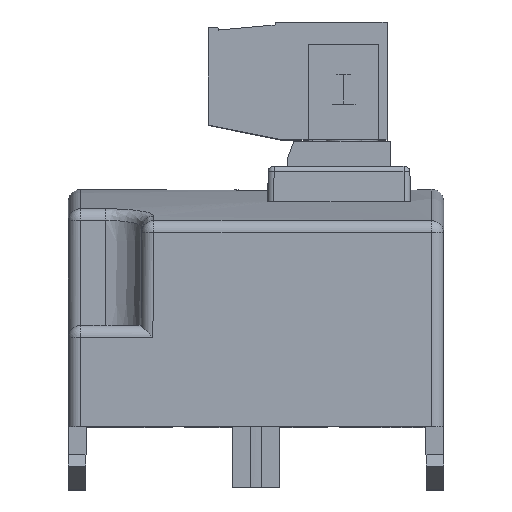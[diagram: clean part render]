
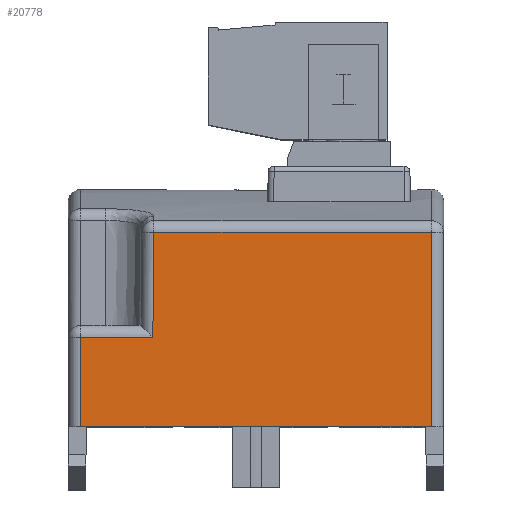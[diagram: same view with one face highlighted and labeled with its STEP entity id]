
A CAD part, top view. The second image highlights one B-rep face of the part: STEP entity #20778.
In plain terms, the highlighted planar face has unit normal (0, 0, 1).
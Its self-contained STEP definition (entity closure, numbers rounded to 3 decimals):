
#3529=DIRECTION('',(1.,0.,0.));
#3530=VECTOR('',#3529,29.5);
#3531=CARTESIAN_POINT('',(-14.75,0.,31.));
#3532=LINE('',#3531,#3530);
#4944=DIRECTION('',(0.,-1.,0.));
#4945=VECTOR('',#4944,16.316);
#4946=CARTESIAN_POINT('',(14.75,16.316,31.));
#4947=LINE('',#4946,#4945);
#4948=DIRECTION('',(0.,-1.,0.));
#4949=VECTOR('',#4948,7.5);
#4950=CARTESIAN_POINT('',(-14.75,7.5,31.));
#4951=LINE('',#4950,#4949);
#4952=DIRECTION('',(-1.,0.,0.));
#4953=VECTOR('',#4952,6.091);
#4954=CARTESIAN_POINT('',(-8.659,7.5,31.));
#4955=LINE('',#4954,#4953);
#4956=DIRECTION('',(-0.009,-1.,0.));
#4957=VECTOR('',#4956,8.816);
#4958=CARTESIAN_POINT('',(-8.582,16.316,31.));
#4959=LINE('',#4958,#4957);
#4960=DIRECTION('',(-1.,0.,0.));
#4961=VECTOR('',#4960,23.332);
#4962=CARTESIAN_POINT('',(14.75,16.316,31.));
#4963=LINE('',#4962,#4961);
#14057=CARTESIAN_POINT('',(14.75,0.,31.));
#14059=VERTEX_POINT('',#14057);
#14060=CARTESIAN_POINT('',(14.75,16.316,31.));
#14061=VERTEX_POINT('',#14060);
#14066=CARTESIAN_POINT('',(-14.75,0.,31.));
#14068=VERTEX_POINT('',#14066);
#14072=CARTESIAN_POINT('',(-14.75,7.5,31.));
#14073=VERTEX_POINT('',#14072);
#14084=CARTESIAN_POINT('',(-8.659,7.5,31.));
#14085=VERTEX_POINT('',#14084);
#14087=CARTESIAN_POINT('',(-8.582,16.316,31.));
#14089=VERTEX_POINT('',#14087);
#20764=CARTESIAN_POINT('',(-15.75,0.,31.));
#20765=DIRECTION('',(0.,0.,1.));
#20766=DIRECTION('',(1.,0.,0.));
#20767=AXIS2_PLACEMENT_3D('',#20764,#20765,#20766);
#20768=PLANE('',#20767);
#20769=ORIENTED_EDGE('',*,*,#18642,.T.);
#20770=ORIENTED_EDGE('',*,*,#18681,.F.);
#20771=ORIENTED_EDGE('',*,*,#19850,.F.);
#20772=ORIENTED_EDGE('',*,*,#19691,.F.);
#20774=ORIENTED_EDGE('',*,*,#20773,.F.);
#20775=ORIENTED_EDGE('',*,*,#20232,.F.);
#20776=EDGE_LOOP('',(#20769,#20770,#20771,#20772,#20774,#20775));
#20777=FACE_OUTER_BOUND('',#20776,.F.);
#20778=ADVANCED_FACE('',(#20777),#20768,.T.);
#18642=EDGE_CURVE('',#14061,#14059,#4947,.T.);
#18681=EDGE_CURVE('',#14068,#14059,#3532,.T.);
#19691=EDGE_CURVE('',#14085,#14073,#4955,.T.);
#19850=EDGE_CURVE('',#14073,#14068,#4951,.T.);
#20232=EDGE_CURVE('',#14061,#14089,#4963,.T.);
#20773=EDGE_CURVE('',#14089,#14085,#4959,.T.);
